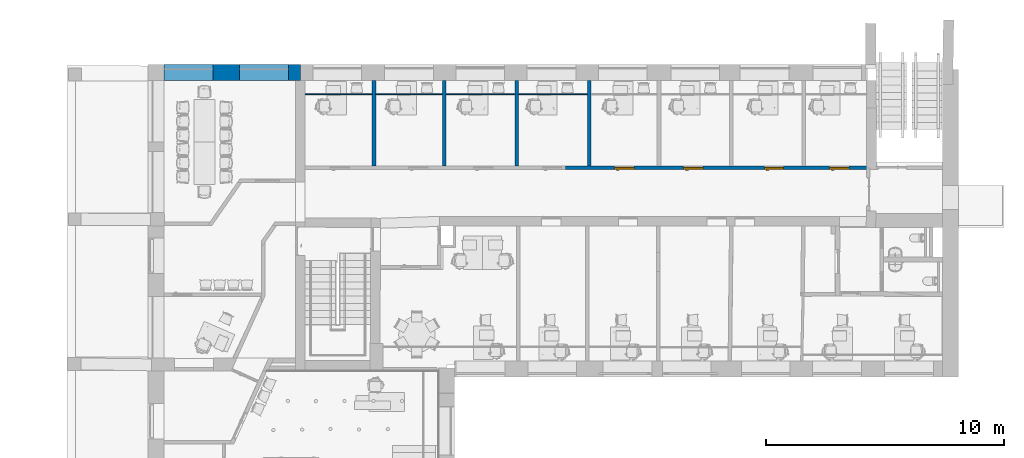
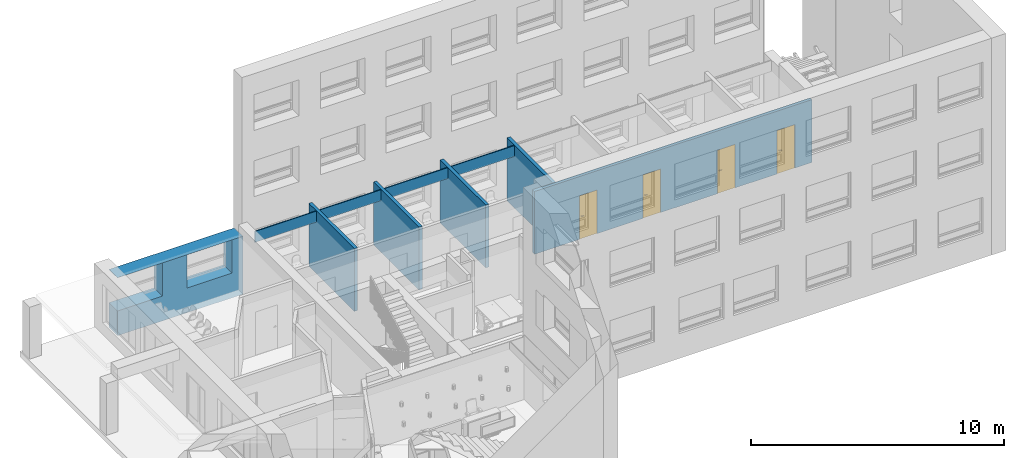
# One storey, part 8 of 25: 10 walls, 4 doors, 6 openings.
"""IFC2X3 building model written with IfcOpenShell, lengths in millimetres."""

from ifc_helpers import new_model, entity, si_unit, converted_unit, derived_unit, direction, frame, frame_2d, origin, place, context, subcontext, project, spatial, polyline, rectangle, outline, extrude, clip, bounded_halfspace, faceted_brep, source, transform, mapped, material, material_list, layer, layer_set, layer_usage, type_object, type_shapes, element, fill, save


model = new_model("IFC2X3")

# Units and contexts
model_context = context("Model", 3, precision=0.01, world=origin(), true_north=direction((6.12303176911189e-17, 1.0)))
context_of_model = context(None, 3, precision=0.01, world=origin(), true_north=direction((6.12303176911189e-17, 1.0)))
body_context = subcontext(model_context, "Body", "Model", "MODEL_VIEW")
ifc_project = project(units=[si_unit("LENGTHUNIT", "METRE", prefix="MILLI"), si_unit("AREAUNIT", "SQUARE_METRE"), si_unit("VOLUMEUNIT", "CUBIC_METRE"), converted_unit("PLANEANGLEUNIT", "DEGREE", entity("IfcRatioMeasure", 0.0174532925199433), si_unit("PLANEANGLEUNIT", "RADIAN"), dimensions=[0, 0, 0, 0, 0, 0, 0]), si_unit("MASSUNIT", "GRAM", prefix="KILO"), derived_unit("MASSDENSITYUNIT", [(si_unit("MASSUNIT", "GRAM", prefix="KILO"), 1), (si_unit("LENGTHUNIT", "METRE"), -3)]), si_unit("TIMEUNIT", "SECOND"), si_unit("FREQUENCYUNIT", "HERTZ"), si_unit("THERMODYNAMICTEMPERATUREUNIT", "DEGREE_CELSIUS"), derived_unit("THERMALTRANSMITTANCEUNIT", [(si_unit("MASSUNIT", "GRAM", prefix="KILO"), 1), (si_unit("THERMODYNAMICTEMPERATUREUNIT", "KELVIN"), -1), (si_unit("TIMEUNIT", "SECOND"), -3)]), derived_unit("VOLUMETRICFLOWRATEUNIT", [(si_unit("LENGTHUNIT", "METRE"), 3), (si_unit("TIMEUNIT", "SECOND"), -1)]), si_unit("ELECTRICCURRENTUNIT", "AMPERE"), si_unit("ELECTRICVOLTAGEUNIT", "VOLT"), si_unit("POWERUNIT", "WATT"), si_unit("FORCEUNIT", "NEWTON", prefix="KILO"), si_unit("ILLUMINANCEUNIT", "LUX"), si_unit("LUMINOUSFLUXUNIT", "LUMEN"), si_unit("LUMINOUSINTENSITYUNIT", "CANDELA"), derived_unit("USERDEFINED", [(si_unit("MASSUNIT", "GRAM", prefix="KILO"), -1), (si_unit("LENGTHUNIT", "METRE"), -2), (si_unit("TIMEUNIT", "SECOND"), 3), (si_unit("LUMINOUSFLUXUNIT", "LUMEN"), 1)]), derived_unit("LINEARVELOCITYUNIT", [(si_unit("LENGTHUNIT", "METRE"), 1), (si_unit("TIMEUNIT", "SECOND"), -1)]), si_unit("PRESSUREUNIT", "PASCAL"), derived_unit("USERDEFINED", [(si_unit("LENGTHUNIT", "METRE"), -2), (si_unit("MASSUNIT", "GRAM", prefix="KILO"), 1), (si_unit("TIMEUNIT", "SECOND"), -2)])], contexts=[model_context, context_of_model])

# Site, building, storey
site_placement = place(None, frame((121442.264707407, 135347.995453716, -1800.0)))
site = spatial("IfcSite", under=ifc_project, at=site_placement, Name="Surface", CompositionType="ELEMENT")
building_placement = place(site_placement, origin())
building = spatial("IfcBuilding", under=site, at=building_placement, CompositionType="ELEMENT")
storey_placement = place(building_placement, frame((0.0, 0.0, 1800.0)))
storey = spatial("IfcBuildingStorey", under=building, at=storey_placement, Name="1 korrus", CompositionType="ELEMENT", Elevation=1800.00000000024)

# Wall, openings, doors
ifc_material_1 = material(Name="Plaster")
ifc_layer_1 = layer(ifc_material_1, 10.0)
ifc_material_2 = material(Name="EST. Müüritis. Väikeplokk. Kergkruusplokk")
ifc_layer_2 = layer(ifc_material_2, 130.0)
ifc_layer_3 = layer(ifc_material_1, 10.0)
ifc_layer_set_1 = layer_set([ifc_layer_1, ifc_layer_2, ifc_layer_3], Name="Basic Wall:15_FIBO")
ifc_layer_usage_1 = layer_usage(ifc_layer_set_1, "AXIS2", "NEGATIVE", 75.0)
wall_type_1 = type_object("IfcWallType", Name="Basic Wall:15_FIBO", PredefinedType="STANDARD", material=ifc_layer_set_1)
wall_1_placement = place(storey_placement, frame((-85699.3704306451, -119019.76856454, 0.0), z_axis=(0.0, 0.0, 1.0), x_axis=(-1.0, 0.0, 0.0)))
wall_1 = element("IfcWallStandardCase", 1, at=wall_1_placement, inside=storey, type_object=wall_type_1, material=ifc_layer_usage_1, Name="Basic Wall:15_FIBO", ObjectType="Basic Wall:15_FIBO", context=body_context, shape_type="Clipping", body=[
    clip(extrude(outline(polyline([(0.632504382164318, -75.0), (2579.62886908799, -75.0), (2729.62886908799, -75.0), (5628.64671019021, -75.0), (5778.64671019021, -75.0), (8658.64671019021, -75.0), (8808.64671019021, -75.0), (11589.628869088, -75.0), (11739.628869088, -75.0), (12653.6467101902, -75.0), (12653.6467101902, 75.0), (18.5437366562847, 75.0), (0.0, 75.0), (0.632504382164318, -75.0)])), origin(), (0.0, 0.0, 1.0), 3032.0), bounded_halfspace(frame((0.632504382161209, -75.0, 3032.0), z_axis=(0.0, 0.0, -1.0), x_axis=(0.0, 1.0, 0.0)), True, frame((0.632504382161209, -75.0, 3032.0)), polyline([(0.0, 0.0), (2578.99636470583, 0.0), (2728.99636470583, 0.0), (5628.01420580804, 0.0), (5778.01420580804, 0.0), (8658.01420580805, 0.0), (8808.01420580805, 0.0), (11588.9963647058, 0.0), (11738.9963647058, 0.0), (12653.014205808, 0.0), (12653.014205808, 150.0), (17.9112322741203, 150.0), (-0.632504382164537, 150.0), (0.0, 0.0)]))),
])
opening_1_placement = place(wall_1_placement, frame((766.027048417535, -75.0, 0.0)))
opening_1 = element("IfcOpeningElement", 2, at=opening_1_placement, cuts=wall_1, Name="sma_D01:810 x 2110_SU-01 Siseuks:1", ObjectType="Opening", context=body_context, shape_type="SweptSolid", body=[
    extrude(rectangle(XDim=2099.99999999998, YDim=810.0, at=frame_2d((1049.99999999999, 405.000000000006), x_axis=(1.0, 0.0))), frame((0.0, 0.0, 0.0), z_axis=(0.0, 1.0, 0.0), x_axis=(0.0, 0.0, 1.0)), (0.0, 0.0, 1.0), 150.0),
])
opening_2_placement = place(wall_1_placement, frame((3496.02704841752, -75.0, 0.0)))
opening_2 = element("IfcOpeningElement", 3, at=opening_2_placement, cuts=wall_1, Name="sma_D01:810 x 2110_SU-01 Siseuks:1", ObjectType="Opening", context=body_context, shape_type="SweptSolid", body=[
    extrude(rectangle(XDim=2099.99999999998, YDim=810.0, at=frame_2d((1049.99999999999, 405.000000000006), x_axis=(1.0, 0.0))), frame((0.0, 0.0, 0.0), z_axis=(0.0, 1.0, 0.0), x_axis=(0.0, 0.0, 1.0)), (0.0, 0.0, 1.0), 150.0),
])
opening_3_placement = place(wall_1_placement, frame((6891.23363430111, -75.0, 0.0)))
opening_3 = element("IfcOpeningElement", 4, at=opening_3_placement, cuts=wall_1, Name="sma_D01:810 x 2110_SU-01 Siseuks:1", ObjectType="Opening", context=body_context, shape_type="SweptSolid", body=[
    extrude(rectangle(XDim=2099.99999999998, YDim=810.0, at=frame_2d((1049.99999999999, 405.000000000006), x_axis=(1.0, 0.0))), frame((0.0, 0.0, 0.0), z_axis=(0.0, 1.0, 0.0), x_axis=(0.0, 0.0, 1.0)), (0.0, 0.0, 1.0), 150.0),
])
opening_4_placement = place(wall_1_placement, frame((9794.40617987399, -75.0, 0.0)))
opening_4 = element("IfcOpeningElement", 5, at=opening_4_placement, cuts=wall_1, Name="sma_D01:810 x 2110_SU-01 Siseuks:1", ObjectType="Opening", context=body_context, shape_type="SweptSolid", body=[
    extrude(rectangle(XDim=2099.99999999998, YDim=810.0, at=frame_2d((1049.99999999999, 405.000000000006), x_axis=(1.0, 0.0))), frame((0.0, 0.0, 0.0), z_axis=(0.0, 1.0, 0.0), x_axis=(0.0, 0.0, 1.0)), (0.0, 0.0, 1.0), 150.0),
])
ifc_material_3 = material(Name="Metal - Aluminium")
ifc_material_4 = material(Name="Door - Panel_valge")
ifc_material_list_1 = material_list([ifc_material_3, ifc_material_4])
ifc_material_list_2 = material_list([ifc_material_3, ifc_material_4])
door_style = type_object("IfcDoorStyle", Name="810 x 2110_SU-01 Siseuks", ConstructionType="NOTDEFINED", OperationType="SINGLE_SWING_LEFT", ParameterTakesPrecedence=False, Sizeable=False, material=ifc_material_list_2)
shared_shape = source(origin(), body_context, "Body", "Brep", [
    faceted_brep([(710.0, 40.0, 1112.5), (615.0, 40.0, 1112.5), (615.0, 35.0, 1112.5), (735.0, 35.0, 1112.5), (735.0, 78.0, 1112.5), (710.0, 78.0, 1112.5), (710.0, 40.0, 1087.5), (710.0, 78.0, 1087.5), (735.0, 78.0, 1087.5), (735.0, 35.0, 1087.5), (615.0, 35.0, 1087.5), (615.0, 40.0, 1087.5)], [[[0, 1, 2, 3, 4, 5]], [[6, 7, 8, 9, 10, 11]], [[5, 7, 6, 0]], [[4, 8, 7, 5]], [[3, 9, 8, 4]], [[2, 10, 9, 3]], [[1, 11, 10, 2]], [[0, 6, 11, 1]]]),
    faceted_brep([(697.500000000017, 78.0, 1137.5), (747.500000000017, 78.0, 1137.5), (747.500000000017, 80.0, 1137.5), (697.500000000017, 80.0, 1137.5), (697.500000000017, 78.0, 1017.5), (697.500000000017, 80.0, 1017.5), (747.500000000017, 80.0, 1017.5), (747.500000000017, 78.0, 1017.5)], [[[0, 1, 2, 3]], [[4, 5, 6, 7]], [[3, 5, 4, 0]], [[2, 6, 5, 3]], [[1, 7, 6, 2]], [[0, 4, 7, 1]]]),
    faceted_brep([(710.0, 170.0, 1112.5), (710.0, 132.0, 1112.5), (735.0, 132.0, 1112.5), (735.0, 175.0, 1112.5), (615.0, 175.0, 1112.5), (615.0, 170.0, 1112.5), (710.0, 170.0, 1087.5), (615.0, 170.0, 1087.5), (615.0, 175.0, 1087.5), (735.0, 175.0, 1087.5), (735.0, 132.0, 1087.5), (710.0, 132.0, 1087.5)], [[[0, 1, 2, 3, 4, 5]], [[6, 7, 8, 9, 10, 11]], [[1, 0, 6, 11]], [[2, 1, 11, 10]], [[3, 2, 10, 9]], [[4, 3, 9, 8]], [[5, 4, 8, 7]], [[0, 5, 7, 6]]]),
    faceted_brep([(697.500000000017, 132.0, 1137.5), (697.500000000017, 130.0, 1137.5), (747.500000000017, 130.0, 1137.5), (747.500000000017, 132.0, 1137.5), (697.500000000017, 132.0, 1017.5), (747.500000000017, 132.0, 1017.5), (747.500000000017, 130.0, 1017.5), (697.500000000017, 130.0, 1017.5)], [[[0, 1, 2, 3]], [[4, 5, 6, 7]], [[1, 0, 4, 7]], [[2, 1, 7, 6]], [[3, 2, 6, 5]], [[0, 3, 5, 4]]]),
    faceted_brep([(0.0, 40.0, 0.0), (0.0, 130.0, 0.0), (25.0, 130.0, 0.0), (25.0, 80.0, 0.0), (40.0, 80.0, 0.0), (40.0, 40.0, 0.0), (40.0, 40.0, 2060.0), (770.0, 40.0, 2060.0), (770.0, 40.0, 0.0), (810.0, 40.0, 0.0), (810.0, 40.0, 2100.0), (0.0, 40.0, 2100.0), (40.0, 80.0, 2060.0), (25.0, 80.0, 2075.0), (785.0, 80.0, 2075.0), (785.0, 80.0, 0.0), (770.0, 80.0, 0.0), (770.0, 80.0, 2060.0), (25.0, 130.0, 2075.0), (0.0, 130.0, 2100.0), (810.0, 130.0, 2100.0), (810.0, 130.0, 0.0), (785.0, 130.0, 0.0), (785.0, 130.0, 2075.0)], [[[0, 1, 2, 3, 4, 5]], [[5, 6, 7, 8, 9, 10, 11, 0]], [[4, 12, 6, 5]], [[3, 13, 14, 15, 16, 17, 12, 4]], [[2, 18, 13, 3]], [[1, 19, 20, 21, 22, 23, 18, 2]], [[0, 11, 19, 1]], [[10, 9, 21, 20]], [[9, 8, 16, 15, 22, 21]], [[17, 16, 8, 7]], [[23, 22, 15, 14]], [[12, 17, 7, 6]], [[18, 23, 14, 13]], [[11, 10, 20, 19]]]),
    faceted_brep([(785.0, 80.0, 2075.0), (25.0, 80.0, 2075.0), (25.0, 80.0, 20.0), (785.0, 80.0, 20.0), (785.0, 130.0, 2075.0), (785.0, 130.0, 20.0), (25.0, 130.0, 20.0), (25.0, 130.0, 2075.0)], [[[0, 1, 2, 3]], [[4, 5, 6, 7]], [[3, 5, 4, 0]], [[2, 6, 5, 3]], [[1, 7, 6, 2]], [[0, 4, 7, 1]]]),
    faceted_brep([(40.0, 40.0, 30.0), (40.0, 80.0, 30.0), (40.0, 80.0, 20.0), (40.0, 80.0, 0.0), (40.0, 40.0, 0.0), (770.0, 40.0, 30.0), (770.0, 40.0, 0.0), (770.0, 80.0, 0.0), (770.0, 80.0, 20.0), (770.0, 80.0, 30.0), (25.0, 80.0, 0.0), (25.0, 130.0, 0.0), (785.0, 130.0, 0.0), (785.0, 80.0, 0.0), (25.0, 130.0, 20.0), (25.0, 80.0, 20.0), (785.0, 130.0, 20.0), (785.0, 80.0, 20.0)], [[[0, 1, 2, 3, 4]], [[5, 6, 7, 8, 9]], [[4, 6, 5, 0]], [[3, 10, 11, 12, 13, 7, 6, 4]], [[9, 8, 2, 1]], [[0, 5, 9, 1]], [[14, 11, 10, 15]], [[16, 17, 13, 12]], [[15, 2, 8, 17, 16, 14]], [[10, 3, 2, 15]], [[14, 16, 12, 11]], [[17, 8, 7, 13]]]),
])
type_shapes(door_style, [shared_shape])
door_1_placement = place(opening_1_placement, origin())
door_1 = element("IfcDoor", 6, at=door_1_placement, inside=storey, type_object=door_style, material=ifc_material_list_1, Name="sma_D01:810 x 2110_SU-01 Siseuks", ObjectType="810 x 2110_SU-01 Siseuks", OverallHeight=2099.99999999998, OverallWidth=810.000000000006, context=body_context, shape_type="MappedRepresentation", body=[
    mapped(shared_shape, transform((0.0, 0.0, 0.0), scale=1.0)),
])
fill(opening_1, door_1)
ifc_material_list_3 = material_list([ifc_material_3, ifc_material_4])
door_2_placement = place(opening_2_placement, origin())
door_2 = element("IfcDoor", 7, at=door_2_placement, inside=storey, type_object=door_style, material=ifc_material_list_3, Name="sma_D01:810 x 2110_SU-01 Siseuks", ObjectType="810 x 2110_SU-01 Siseuks", OverallHeight=2099.99999999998, OverallWidth=810.000000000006, context=body_context, shape_type="MappedRepresentation", body=[
    mapped(shared_shape, transform((0.0, 0.0, 0.0), scale=1.0)),
])
fill(opening_2, door_2)
ifc_material_list_4 = material_list([ifc_material_3, ifc_material_4])
door_3_placement = place(opening_3_placement, origin())
door_3 = element("IfcDoor", 8, at=door_3_placement, inside=storey, type_object=door_style, material=ifc_material_list_4, Name="sma_D01:810 x 2110_SU-01 Siseuks", ObjectType="810 x 2110_SU-01 Siseuks", OverallHeight=2099.99999999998, OverallWidth=810.000000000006, context=body_context, shape_type="MappedRepresentation", body=[
    mapped(shared_shape, transform((0.0, 0.0, 0.0), scale=1.0)),
])
fill(opening_3, door_3)
ifc_material_list_5 = material_list([ifc_material_3, ifc_material_4])
door_4_placement = place(opening_4_placement, origin())
door_4 = element("IfcDoor", 9, at=door_4_placement, inside=storey, type_object=door_style, material=ifc_material_list_5, Name="sma_D01:810 x 2110_SU-01 Siseuks", ObjectType="810 x 2110_SU-01 Siseuks", OverallHeight=2099.99999999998, OverallWidth=810.000000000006, context=body_context, shape_type="MappedRepresentation", body=[
    mapped(shared_shape, transform((0.0, 0.0, 0.0), scale=1.0)),
])
fill(opening_4, door_4)

# Walls
ifc_layer_usage_2 = layer_usage(ifc_layer_set_1, "AXIS2", "POSITIVE", -75.0)
wall_2_placement = place(storey_placement, frame((-97363.9992997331, -118944.76856454, 0.0), z_axis=(0.0, 0.0, 1.0), x_axis=(0.0, 1.0, 0.0)))
element("IfcWallStandardCase", 10, at=wall_2_placement, inside=storey, type_object=wall_type_1, material=ifc_layer_usage_2, Name="Basic Wall:15_FIBO", ObjectType="Basic Wall:15_FIBO", context=body_context, shape_type="Clipping", body=[
    clip(extrude(rectangle(XDim=3602.84945220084, YDim=150.000000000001, at=frame_2d((1801.42472610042, 0.0), x_axis=(-1.0, 0.0))), origin(), (0.0, 0.0, 1.0), 3032.0), bounded_halfspace(frame((0.0, -75.0, 3032.0), z_axis=(0.0, 0.0, -1.0), x_axis=(-1.0, 0.0, 0.0)), True, frame((0.0, -75.0, 3032.0)), polyline([(0.0, 0.0), (3602.84945220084, 0.0), (3602.84945220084, 150.0), (0.0, 150.0), (0.0, 0.0)]))),
])
ifc_layer_usage_3 = layer_usage(ifc_layer_set_1, "AXIS2", "POSITIVE", -75.0)
wall_3_placement = place(storey_placement, frame((-100413.999299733, -118944.76856454, 0.0), z_axis=(0.0, 0.0, 1.0), x_axis=(0.0, 1.0, 0.0)))
element("IfcWallStandardCase", 11, at=wall_3_placement, inside=storey, type_object=wall_type_1, material=ifc_layer_usage_3, Name="Basic Wall:15_FIBO", ObjectType="Basic Wall:15_FIBO", context=body_context, shape_type="Clipping", body=[
    clip(extrude(rectangle(XDim=3602.84945220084, YDim=150.000000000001, at=frame_2d((1801.42472610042, 0.0), x_axis=(-1.0, 0.0))), origin(), (0.0, 0.0, 1.0), 3032.0), bounded_halfspace(frame((0.0, -75.0, 3032.0), z_axis=(0.0, 0.0, -1.0), x_axis=(-1.0, 0.0, 0.0)), True, frame((0.0, -75.0, 3032.0)), polyline([(0.0, 0.0), (3602.84945220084, 0.0), (3602.84945220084, 150.0), (0.0, 150.0), (0.0, 0.0)]))),
])
ifc_layer_usage_4 = layer_usage(ifc_layer_set_1, "AXIS2", "POSITIVE", -75.0)
wall_4_placement = place(storey_placement, frame((-103453.999299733, -118944.76856454, 0.0), z_axis=(0.0, 0.0, 1.0), x_axis=(0.0, 1.0, 0.0)))
element("IfcWallStandardCase", 12, at=wall_4_placement, inside=storey, type_object=wall_type_1, material=ifc_layer_usage_4, Name="Basic Wall:15_FIBO", ObjectType="Basic Wall:15_FIBO", context=body_context, shape_type="Clipping", body=[
    clip(extrude(rectangle(XDim=3602.84945220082, YDim=150.000000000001, at=frame_2d((1801.42472610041, 0.0), x_axis=(-1.0, 0.0))), origin(), (0.0, 0.0, 1.0), 3032.0), bounded_halfspace(frame((0.0, -75.0, 3032.0), z_axis=(0.0, 0.0, -1.0), x_axis=(-1.0, 0.0, 0.0)), True, frame((0.0, -75.0, 3032.0)), polyline([(0.0, 0.0), (3602.84945220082, 0.0), (3602.84945220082, 150.0), (0.0, 150.0), (0.0, 0.0)]))),
])
ifc_layer_usage_5 = layer_usage(ifc_layer_set_1, "AXIS2", "POSITIVE", -75.0)
wall_5_placement = place(storey_placement, frame((-106403.999299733, -118944.76856454, 0.0), z_axis=(0.0, 0.0, 1.0), x_axis=(0.0, 1.0, 0.0)))
element("IfcWallStandardCase", 13, at=wall_5_placement, inside=storey, type_object=wall_type_1, material=ifc_layer_usage_5, Name="Basic Wall:15_FIBO", ObjectType="Basic Wall:15_FIBO", context=body_context, shape_type="Clipping", body=[
    clip(extrude(rectangle(XDim=3602.84945220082, YDim=150.000000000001, at=frame_2d((1801.42472610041, 0.0), x_axis=(-1.0, 0.0))), origin(), (0.0, 0.0, 1.0), 3032.0), bounded_halfspace(frame((0.0, -75.0, 3032.0), z_axis=(0.0, 0.0, -1.0), x_axis=(-1.0, 0.0, 0.0)), True, frame((0.0, -75.0, 3032.0)), polyline([(0.0, 0.0), (3602.84945220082, 0.0), (3602.84945220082, 150.0), (0.0, 150.0), (0.0, 0.0)]))),
])

# Wall, openings
ifc_layer_4 = layer(ifc_material_1, 10.0)
ifc_material_5 = material(Name="EST. Soojustus. Kivivill. Default")
ifc_layer_5 = layer(ifc_material_5, 200.0)
ifc_layer_6 = layer(ifc_material_2, 450.0)
ifc_layer_7 = layer(ifc_material_1, 10.0)
ifc_layer_set_2 = layer_set([ifc_layer_4, ifc_layer_5, ifc_layer_6, ifc_layer_7], Name="Basic Wall:Uus Välissein +  Soojustus")
ifc_layer_usage_6 = layer_usage(ifc_layer_set_2, "AXIS2", "NEGATIVE", 335.0)
wall_type_2 = type_object("IfcWallType", Name="Basic Wall:Uus Välissein +  Soojustus", PredefinedType="STANDARD", material=ifc_layer_set_2)
wall_6_placement = place(storey_placement, frame((-115215.776610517, -115016.919112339, -293.0)))
wall_6 = element("IfcWallStandardCase", 14, at=wall_6_placement, inside=storey, type_object=wall_type_2, material=ifc_layer_usage_6, Name="Basic Wall:Uus Välissein +  Soojustus", ObjectType="Basic Wall:Uus Välissein +  Soojustus", context=body_context, shape_type="SweptSolid", body=[
    extrude(rectangle(XDim=5722.75946968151, YDim=669.999999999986, at=frame_2d((2861.37973484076, -3.97903932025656e-13), x_axis=(-1.0, 0.0))), origin(), (0.0, 0.0, 1.0), 2795.56563604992),
])
opening_5_placement = place(wall_6_placement, frame((0.0, -335.0, 1193.0)))
element("IfcOpeningElement", 15, at=opening_5_placement, cuts=wall_6, Name="sma_W2:A-2 2050 x 1430mm Avatav:1", ObjectType="Opening", context=body_context, shape_type="SweptSolid", body=[
    extrude(rectangle(XDim=1600.0, YDim=2050.0, at=frame_2d((800.0, 1025.0), x_axis=(1.0, 0.0))), frame((0.0, 0.0, 0.0), z_axis=(0.0, 1.0, 0.0), x_axis=(0.0, 0.0, 1.0)), (0.0, 0.0, 1.0), 670.0),
])
opening_6_placement = place(wall_6_placement, frame((3172.75946968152, -335.0, 1193.0)))
element("IfcOpeningElement", 16, at=opening_6_placement, cuts=wall_6, Name="sma_W2:A-2 2050 x 1430mm Avatav:1", ObjectType="Opening", context=body_context, shape_type="SweptSolid", body=[
    extrude(rectangle(XDim=1600.0, YDim=2050.0, at=frame_2d((800.0, 1025.0), x_axis=(1.0, 0.0))), frame((0.0, 0.0, 0.0), z_axis=(0.0, 1.0, 0.0), x_axis=(0.0, 0.0, 1.0)), (0.0, 0.0, 1.0), 670.0),
])

# Walls
ifc_material_6 = material(Name="Metal - Stud Layer")
ifc_layer_8 = layer(ifc_material_6, 30.0)
ifc_material_7 = material(Name="Gypsum Wall Board")
ifc_layer_9 = layer(ifc_material_7, 13.0)
ifc_layer_set_3 = layer_set([ifc_layer_8, ifc_layer_9], Name="Basic Wall:Kipssirm 1 kordne")
ifc_layer_usage_7 = layer_usage(ifc_layer_set_3, "AXIS2", "POSITIVE", -21.5)
wall_type_3 = type_object("IfcWallType", Name="Basic Wall:Kipssirm 1 kordne", PredefinedType="STANDARD", material=ifc_layer_set_3)
wall_7_placement = place(storey_placement, frame((-109293.017140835, -115928.952432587, 2500.0)))
element("IfcWallStandardCase", 17, at=wall_7_placement, inside=storey, type_object=wall_type_3, material=ifc_layer_usage_7, Name="Basic Wall:Kipssirm 1 kordne", ObjectType="Basic Wall:Kipssirm 1 kordne", context=body_context, shape_type="SweptSolid", body=[
    extrude(rectangle(XDim=2814.01784110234, YDim=43.0000000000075, at=frame_2d((1407.00892055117, 4.61852778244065e-14), x_axis=(-1.0, 0.0))), origin(), (0.0, 0.0, 1.0), 525.0),
])
ifc_layer_usage_8 = layer_usage(ifc_layer_set_3, "AXIS2", "POSITIVE", -21.5)
wall_8_placement = place(storey_placement, frame((-106328.999299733, -115928.952432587, 2500.0)))
element("IfcWallStandardCase", 18, at=wall_8_placement, inside=storey, type_object=wall_type_3, material=ifc_layer_usage_8, Name="Basic Wall:Kipssirm 1 kordne", ObjectType="Basic Wall:Kipssirm 1 kordne", context=body_context, shape_type="SweptSolid", body=[
    extrude(rectangle(XDim=2799.99999999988, YDim=43.0000000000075, at=frame_2d((1399.99999999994, 6.03961325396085e-14), x_axis=(-1.0, 0.0))), origin(), (0.0, 0.0, 1.0), 525.0),
])
ifc_layer_usage_9 = layer_usage(ifc_layer_set_3, "AXIS2", "POSITIVE", -21.5)
wall_9_placement = place(storey_placement, frame((-103378.999299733, -115928.952432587, 2500.0)))
element("IfcWallStandardCase", 19, at=wall_9_placement, inside=storey, type_object=wall_type_3, material=ifc_layer_usage_9, Name="Basic Wall:Kipssirm 1 kordne", ObjectType="Basic Wall:Kipssirm 1 kordne", context=body_context, shape_type="SweptSolid", body=[
    extrude(rectangle(XDim=2890.0, YDim=43.0000000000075, at=frame_2d((1445.0, 6.03961325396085e-14), x_axis=(-1.0, 0.0))), origin(), (0.0, 0.0, 1.0), 525.0),
])
ifc_layer_usage_10 = layer_usage(ifc_layer_set_3, "AXIS2", "POSITIVE", -21.5)
wall_10_placement = place(storey_placement, frame((-100338.999299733, -115928.952432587, 2500.0)))
element("IfcWallStandardCase", 20, at=wall_10_placement, inside=storey, type_object=wall_type_3, material=ifc_layer_usage_10, Name="Basic Wall:Kipssirm 1 kordne", ObjectType="Basic Wall:Kipssirm 1 kordne", context=body_context, shape_type="SweptSolid", body=[
    extrude(rectangle(XDim=2900.0, YDim=43.0000000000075, at=frame_2d((1450.0, 5.86197757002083e-14), x_axis=(-1.0, 0.0))), origin(), (0.0, 0.0, 1.0), 525.0),
])

save(model, "model.ifc")
